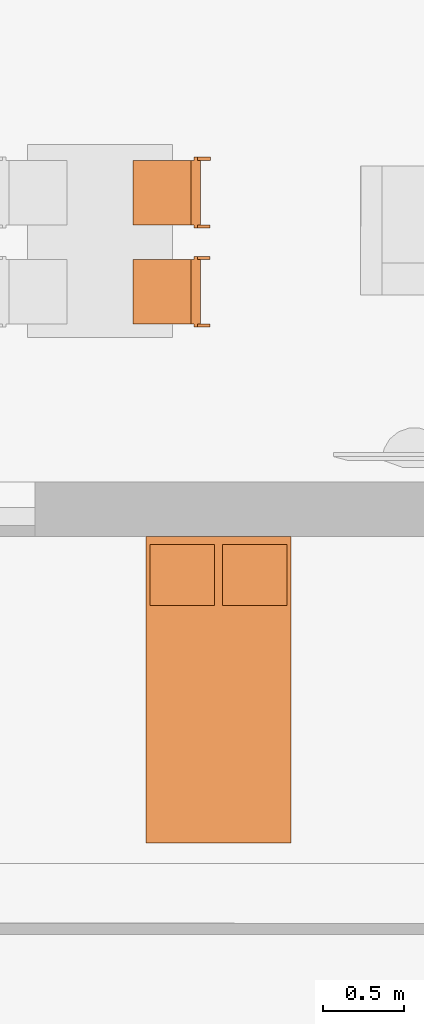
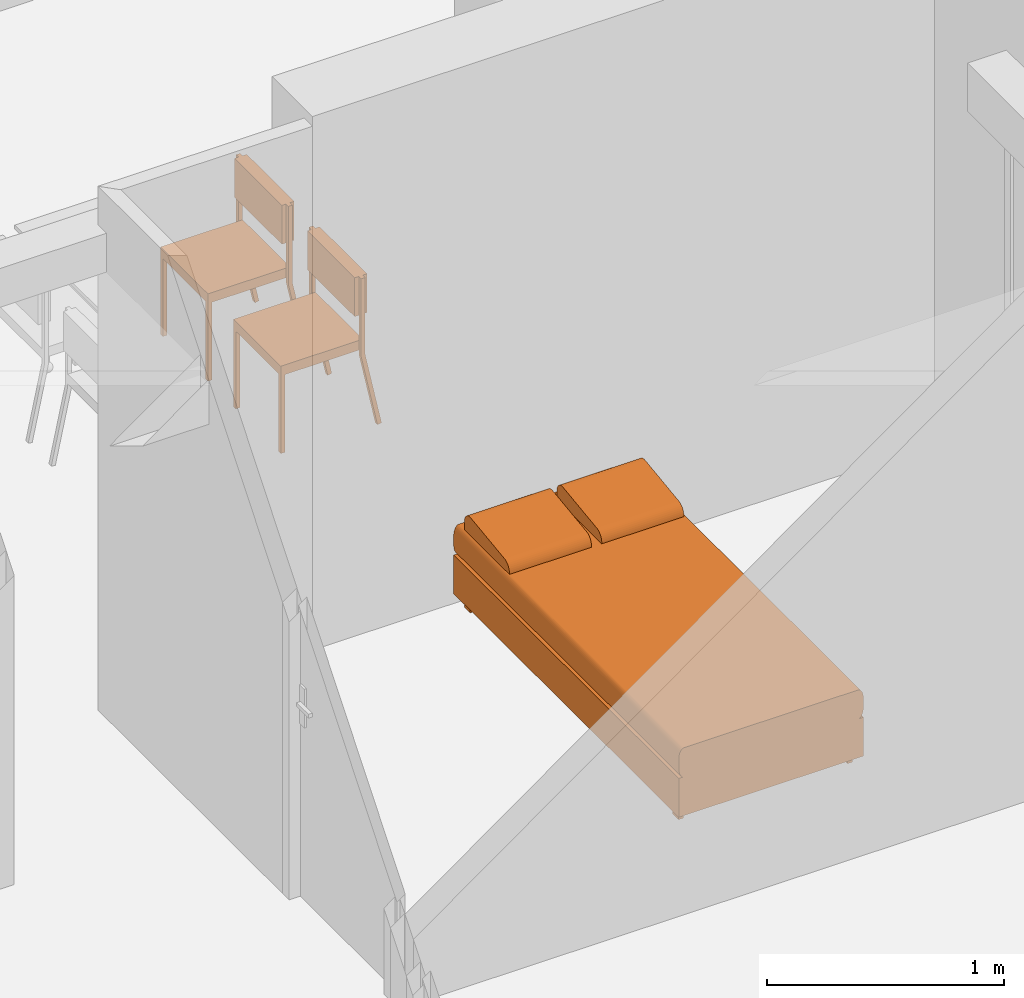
# One storey, part 155 of 171: 3 proxies.
"""IFC2X3 building model written with IfcOpenShell, lengths in millimetres."""

from ifc_helpers import new_model, entity, si_unit, converted_unit, derived_unit, money_unit, direction, frame, origin_with_axes, place, context, subcontext, project, spatial, open_shell, faceted_brep, surface_model, source, transform, mapped, type_object, element, save


model = new_model("IFC2X3")

# Units and contexts
model_context = context("Model", 3, precision=0.01, world=origin_with_axes(), true_north=direction((0.0, 1.0)))
body_context = subcontext(model_context, "Body", "Model", "MODEL_VIEW")
ifc_project = project(units=[si_unit("LENGTHUNIT", "METRE", prefix="MILLI"), si_unit("AREAUNIT", "SQUARE_METRE"), si_unit("VOLUMEUNIT", "CUBIC_METRE"), converted_unit("PLANEANGLEUNIT", "DEGREE", entity("IfcPlaneAngleMeasure", 0.0174532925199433), si_unit("PLANEANGLEUNIT", "RADIAN"), dimensions=[0, 0, 0, 0, 0, 0, 0]), money_unit("USD"), converted_unit("TIMEUNIT", "Year", entity("IfcTimeMeasure", 31557600.0), si_unit("TIMEUNIT", "SECOND"), dimensions=[0, 0, 1, 0, 0, 0, 0]), si_unit("MASSUNIT", "GRAM", prefix="KILO"), si_unit("THERMODYNAMICTEMPERATUREUNIT", "DEGREE_CELSIUS"), si_unit("LUMINOUSINTENSITYUNIT", "LUMEN"), si_unit("ENERGYUNIT", "JOULE", prefix="MEGA"), derived_unit("THERMALCONDUCTANCEUNIT", [(si_unit("POWERUNIT", "WATT"), 1), (si_unit("LENGTHUNIT", "METRE"), -1), (si_unit("THERMODYNAMICTEMPERATUREUNIT", "KELVIN"), -1)]), derived_unit("SPECIFICHEATCAPACITYUNIT", [(si_unit("ENERGYUNIT", "JOULE"), 1), (si_unit("MASSUNIT", "GRAM", prefix="KILO"), -1), (si_unit("THERMODYNAMICTEMPERATUREUNIT", "KELVIN"), -1)]), derived_unit("MASSDENSITYUNIT", [(si_unit("MASSUNIT", "GRAM", prefix="KILO"), 1), (si_unit("VOLUMEUNIT", "CUBIC_METRE"), -1)])], contexts=[model_context])

# Site, building, storey
site_placement = place(None, origin_with_axes())
site = spatial("IfcSite", under=ifc_project, at=site_placement, Name="Site", CompositionType="ELEMENT")
building_placement = place(site_placement, origin_with_axes())
building = spatial("IfcBuilding", under=site, at=building_placement, Name="Bâtiment", CompositionType="ELEMENT")
storey_placement = place(building_placement, frame((0.0, 0.0, 3000.0), z_axis=(0.0, 0.0, 1.0), x_axis=(1.0, 0.0, 0.0)))
storey = spatial("IfcBuildingStorey", under=building, at=storey_placement, Name="rdc", CompositionType="ELEMENT", Elevation=3000.0)

# Proxies
building_element_proxy_type = type_object("IfcBuildingElementProxyType", PredefinedType="NOTDEFINED")
shared_shape_1 = source(origin_with_axes(), body_context, "Body", "Brep", [
    faceted_brep([(39.99999978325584, 0.0, 0.0), (19.99999989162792, 0.0, 0.0), (19.99999989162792, 19.99999936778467, 0.0), (39.99999978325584, 19.99999936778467, 0.0), (39.99999978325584, 0.0, 400.0), (19.99999989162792, 0.0, 400.0), (19.99999989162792, 19.99999936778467, 400.0), (39.99999978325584, 19.99999936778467, 400.0)], [[[0, 1, 2, 3]], [[1, 0, 4, 5]], [[2, 1, 5, 6]], [[3, 2, 6, 7]], [[0, 3, 7, 4]], [[5, 4, 7, 6]]]),
    faceted_brep([(419.9999977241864, 0.0, 0.0), (399.9999978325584, 0.0, 0.0), (399.9999978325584, 19.99999936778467, 0.0), (419.9999977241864, 19.99999936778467, 0.0), (419.9999977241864, 0.0, 400.0), (399.9999978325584, 0.0, 400.0), (399.9999978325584, 19.99999936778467, 400.0), (419.9999977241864, 19.99999936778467, 400.0)], [[[0, 1, 2, 3]], [[1, 0, 4, 5]], [[2, 1, 5, 6]], [[3, 2, 6, 7]], [[0, 3, 7, 4]], [[5, 4, 7, 6]]]),
    faceted_brep([(399.9999978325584, 0.0, 400.0000000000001), (39.99999978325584, 0.0, 400.0000000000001), (39.99999978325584, 19.99999936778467, 400.0000000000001), (399.9999978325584, 19.99999936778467, 400.0000000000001), (399.9999978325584, 0.0, 420.0000000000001), (39.99999978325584, 0.0, 420.0000000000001), (39.99999978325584, 19.99999936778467, 420.0000000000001), (399.9999978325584, 19.99999936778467, 420.0000000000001)], [[[0, 1, 2, 3]], [[1, 0, 4, 5]], [[2, 1, 5, 6]], [[3, 2, 6, 7]], [[0, 3, 7, 4]], [[5, 4, 7, 6]]]),
    faceted_brep([(39.99999978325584, 19.99999936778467, 400.0000000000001), (19.99999989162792, 19.99999936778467, 400.0000000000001), (19.99999989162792, 379.9999879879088, 400.0000000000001), (39.99999978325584, 379.9999879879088, 400.0000000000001), (39.99999978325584, 19.99999936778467, 420.0000000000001), (19.99999989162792, 19.99999936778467, 420.0000000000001), (19.99999989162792, 379.9999879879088, 420.0000000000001), (39.99999978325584, 379.9999879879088, 420.0000000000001)], [[[0, 1, 2, 3]], [[1, 0, 4, 5]], [[2, 1, 5, 6]], [[3, 2, 6, 7]], [[0, 3, 7, 4]], [[5, 4, 7, 6]]]),
    faceted_brep([(419.9999977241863, 379.9999879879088, 400.0000000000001), (19.99999989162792, 379.9999879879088, 400.0000000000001), (19.99999989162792, 399.9999873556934, 400.0000000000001), (419.9999977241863, 399.9999873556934, 400.0000000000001), (419.9999977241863, 379.9999879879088, 420.0000000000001), (19.99999989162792, 379.9999879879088, 420.0000000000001), (19.99999989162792, 399.9999873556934, 420.0000000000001), (419.9999977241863, 399.9999873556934, 420.0000000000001)], [[[0, 1, 2, 3]], [[1, 0, 4, 5]], [[2, 1, 5, 6]], [[3, 2, 6, 7]], [[0, 3, 7, 4]], [[5, 4, 7, 6]]]),
    faceted_brep([(419.9999977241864, 19.99999936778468, 400.0000000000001), (399.9999978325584, 19.99999936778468, 400.0000000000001), (399.9999978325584, 379.9999879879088, 400.0000000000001), (419.9999977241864, 379.9999879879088, 400.0000000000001), (419.9999977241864, 19.99999936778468, 420.0000000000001), (399.9999978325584, 19.99999936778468, 420.0000000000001), (399.9999978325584, 379.9999879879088, 420.0000000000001), (419.9999977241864, 379.9999879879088, 420.0000000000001)], [[[0, 1, 2, 3]], [[1, 0, 4, 5]], [[2, 1, 5, 6]], [[3, 2, 6, 7]], [[0, 3, 7, 4]], [[5, 4, 7, 6]]]),
    faceted_brep([(419.9999977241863, 0.0, 400.0), (19.99999989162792, 0.0, 400.0), (19.99999989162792, 399.9999873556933, 400.0), (419.9999977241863, 399.9999873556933, 400.0), (419.9999977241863, 0.0, 450.0), (19.99999989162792, 0.0, 450.0), (19.99999989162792, 399.9999873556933, 450.0), (419.9999977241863, 399.9999873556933, 450.0)], [[[0, 1, 2, 3]], [[1, 0, 4, 5]], [[2, 1, 5, 6]], [[3, 2, 6, 7]], [[0, 3, 7, 4]], [[5, 4, 7, 6]]]),
    faceted_brep([(19.99999989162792, 379.9999879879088, 380.0), (0.0, 379.9999879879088, 380.0), (0.0, 399.9999873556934, 380.0), (19.99999989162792, 399.9999873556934, 380.0), (19.99999989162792, 379.9999879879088, 780.0), (0.0, 379.9999879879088, 780.0), (0.0, 399.9999873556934, 780.0), (19.99999989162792, 399.9999873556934, 780.0)], [[[0, 1, 2, 3]], [[1, 0, 4, 5]], [[2, 1, 5, 6]], [[3, 2, 6, 7]], [[0, 3, 7, 4]], [[5, 4, 7, 6]]]),
    faceted_brep([(439.9999976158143, 379.9999879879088, 380.0), (419.9999977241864, 379.9999879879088, 380.0), (419.9999977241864, 399.9999873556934, 380.0), (439.9999976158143, 399.9999873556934, 380.0), (439.9999976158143, 379.9999879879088, 780.0), (419.9999977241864, 379.9999879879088, 780.0), (419.9999977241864, 399.9999873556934, 780.0), (439.9999976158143, 399.9999873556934, 780.0)], [[[0, 1, 2, 3]], [[1, 0, 4, 5]], [[2, 1, 5, 6]], [[3, 2, 6, 7]], [[0, 3, 7, 4]], [[5, 4, 7, 6]]]),
    faceted_brep([(419.9999977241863, 359.999988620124, 580.0000000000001), (19.99999989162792, 359.999988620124, 580.0000000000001), (19.99999989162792, 419.9999867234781, 580.0000000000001), (419.9999977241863, 419.9999867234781, 580.0000000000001), (419.9999977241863, 359.999988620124, 780.0), (19.99999989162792, 359.999988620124, 780.0), (19.99999989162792, 419.9999867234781, 780.0), (419.9999977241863, 419.9999867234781, 780.0)], [[[0, 1, 2, 3]], [[1, 0, 4, 5]], [[2, 1, 5, 6]], [[3, 2, 6, 7]], [[0, 3, 7, 4]], [[5, 4, 7, 6]]]),
    faceted_brep([(19.99999989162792, 459.9999854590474, 0.0), (0.0, 459.9999854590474, 0.0), (0.0, 479.5709559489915, 4.120326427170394), (19.99999989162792, 479.5709559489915, 4.120326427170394), (19.99999989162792, 379.997669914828, 379.999760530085), (0.0, 379.997669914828, 379.999760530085), (0.0, 399.5686404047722, 384.1200869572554), (19.99999989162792, 399.5686404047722, 384.1200869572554)], [[[0, 1, 2, 3]], [[1, 0, 4, 5]], [[2, 1, 5, 6]], [[3, 2, 6, 7]], [[0, 3, 7, 4]], [[5, 4, 7, 6]]]),
    faceted_brep([(439.9999976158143, 459.9999854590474, 0.0), (419.9999977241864, 459.9999854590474, 0.0), (419.9999977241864, 479.5709559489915, 4.120326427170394), (439.9999976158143, 479.5709559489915, 4.120326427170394), (439.9999976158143, 379.997669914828, 379.999760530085), (419.9999977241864, 379.997669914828, 379.999760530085), (419.9999977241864, 399.5686404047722, 384.1200869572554), (439.9999976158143, 399.5686404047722, 384.1200869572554)], [[[0, 1, 2, 3]], [[1, 0, 4, 5]], [[2, 1, 5, 6]], [[3, 2, 6, 7]], [[0, 3, 7, 4]], [[5, 4, 7, 6]]]),
])
for number, where, z_axis, x_axis, name in (
    (1, (2230042.608251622, -638670.5259858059, 0.0), (0.0, 0.0, 1.0), (-8.510155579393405e-05, -0.9999999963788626, 0.0), "Obj.-027"),
    (2, (2230042.555903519, -639285.6513884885, 0.0), (0.0, 0.0, 1.0), (-8.510155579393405e-05, -0.9999999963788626, 0.0), "Obj.-027"),
):
    element("IfcBuildingElementProxy", number, at=place(storey_placement, frame(where, z_axis=z_axis, x_axis=x_axis)), inside=storey, type_object=building_element_proxy_type, Name=name, context=body_context, shape_type="MappedRepresentation", body=[
        mapped(shared_shape_1, transform((0.0, 0.0, 0.0))),
    ])
shared_shape_2 = source(origin_with_axes(), body_context, "Body", "SurfaceModel", [
    faceted_brep([(-400.0, -95.0, 0.0), (-425.0000000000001, -95.0, 0.0), (-425.0000000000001, -47.5, 0.0), (-400.0, -47.5, 0.0), (-400.0, -95.0, 50.0), (-425.0000000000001, -95.0, 50.0), (-425.0000000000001, -47.5, 50.0), (-400.0, -47.5, 50.0)], [[[0, 1, 2, 3]], [[1, 0, 4, 5]], [[2, 1, 5, 6]], [[3, 2, 6, 7]], [[0, 3, 7, 4]], [[5, 4, 7, 6]]]),
    faceted_brep([(-400.0, -1852.5, 0.0), (-425.0000000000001, -1852.5, 0.0), (-425.0000000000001, -1805.0, 0.0), (-400.0, -1805.0, 0.0), (-400.0, -1852.5, 50.0), (-425.0000000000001, -1852.5, 50.0), (-425.0000000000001, -1805.0, 50.0), (-400.0, -1805.0, 50.0)], [[[0, 1, 2, 3]], [[1, 0, 4, 5]], [[2, 1, 5, 6]], [[3, 2, 6, 7]], [[0, 3, 7, 4]], [[5, 4, 7, 6]]]),
    faceted_brep([(425.0000000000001, -1852.5, 0.0), (400.0, -1852.5, 0.0), (400.0, -1805.0, 0.0), (425.0000000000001, -1805.0, 0.0), (425.0000000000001, -1852.5, 50.0), (400.0, -1852.5, 50.0), (400.0, -1805.0, 50.0), (425.0000000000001, -1805.0, 50.0)], [[[0, 1, 2, 3]], [[1, 0, 4, 5]], [[2, 1, 5, 6]], [[3, 2, 6, 7]], [[0, 3, 7, 4]], [[5, 4, 7, 6]]]),
    faceted_brep([(425.0000000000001, -94.99999999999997, 0.0), (400.0, -94.99999999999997, 0.0), (400.0, -47.49999999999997, 0.0), (425.0000000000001, -47.49999999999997, 0.0), (425.0000000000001, -94.99999999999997, 50.0), (400.0, -94.99999999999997, 50.0), (400.0, -47.49999999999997, 50.0), (425.0000000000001, -47.49999999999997, 50.0)], [[[0, 1, 2, 3]], [[1, 0, 4, 5]], [[2, 1, 5, 6]], [[3, 2, 6, 7]], [[0, 3, 7, 4]], [[5, 4, 7, 6]]]),
    faceted_brep([(-450.0, 0.0, 50.0), (450.0, 0.0, 50.0), (450.0, -1900.0, 50.00000000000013), (-450.0, -1900.0, 50.00000000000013), (-450.0, 0.0, 250.0), (450.0, 0.0, 250.0), (450.0, -1900.0, 250.0000000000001), (-450.0, -1900.0, 250.0000000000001)], [[[0, 1, 2, 3]], [[0, 4, 5, 1]], [[1, 5, 6, 2]], [[3, 2, 6, 7]], [[4, 0, 3, 7]], [[5, 4, 7, 6]]]),
    surface_model("IfcShellBasedSurfaceModel", [(425.0000000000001, 0.0, 250.0), (429.3412044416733, 0.0, 250.7596123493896), (429.3412044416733, -1900.0, 250.7596123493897), (425.0000000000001, -1900.0, 250.0000000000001), (-425.0000000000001, 0.0, 250.0), (-429.3412044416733, 0.0, 250.7596123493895), (-433.5505035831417, 0.0, 253.0153689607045), (-437.5, 0.0, 256.698729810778), (-441.0696902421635, 0.0, 261.6977778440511), (-444.1511110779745, 0.0, 267.860619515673), (-446.650635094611, 0.0, 275.0), (-448.4923155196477, 0.0, 282.8989928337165), (-449.6201938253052, 0.0, 291.3175911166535), (-450.0, 0.0, 300.0000000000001), (-450.0000000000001, 0.0, 350.0), (-449.6201938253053, 0.0, 358.6824088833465), (-448.4923155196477, 0.0, 367.1010071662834), (-446.650635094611, 0.0, 375.0), (-444.1511110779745, 0.0, 382.139380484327), (-441.0696902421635, 0.0, 388.3022221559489), (-437.5000000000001, 0.0, 393.301270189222), (-433.5505035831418, 0.0, 396.9846310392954), (-429.3412044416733, 0.0, 399.2403876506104), (-425.0000000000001, 0.0, 400.0), (425.0, 0.0, 400.0000000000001), (429.3412044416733, 0.0, 399.2403876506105), (433.5505035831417, 0.0, 396.9846310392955), (437.5, 0.0, 393.301270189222), (441.0696902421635, 0.0, 388.3022221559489), (444.1511110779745, 0.0, 382.139380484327), (446.6506350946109, 0.0, 375.0000000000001), (448.4923155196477, 0.0, 367.1010071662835), (449.6201938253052, 0.0, 358.6824088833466), (450.0, 0.0, 350.0000000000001), (450.0, 0.0, 300.0000000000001), (449.6201938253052, 0.0, 291.3175911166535), (448.4923155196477, 0.0, 282.8989928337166), (446.650635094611, 0.0, 275.0), (444.1511110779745, 0.0, 267.8606195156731), (441.0696902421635, 0.0, 261.6977778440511), (437.5000000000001, 0.0, 256.698729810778), (433.5505035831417, 0.0, 253.0153689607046), (433.5505035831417, -1900.0, 253.0153689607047), (-425.0000000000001, -1900.0, 250.0000000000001), (437.5000000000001, -1900.0, 256.6987298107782), (441.0696902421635, -1900.0, 261.6977778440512), (444.1511110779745, -1900.0, 267.8606195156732), (446.650635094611, -1900.0, 275.0000000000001), (448.4923155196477, -1900.0, 282.8989928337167), (449.6201938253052, -1900.0, 291.3175911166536), (450.0, -1900.0, 300.0000000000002), (450.0, -1900.0, 350.0000000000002), (449.6201938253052, -1900.0, 358.6824088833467), (448.4923155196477, -1900.0, 367.1010071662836), (446.6506350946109, -1900.0, 375.0000000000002), (444.1511110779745, -1900.0, 382.1393804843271), (441.0696902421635, -1900.0, 388.302222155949), (437.5, -1900.0, 393.3012701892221), (433.5505035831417, -1900.0, 396.9846310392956), (429.3412044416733, -1900.0, 399.2403876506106), (425.0, -1900.0, 400.0000000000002), (-425.0000000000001, -1900.0, 400.0000000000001), (-429.3412044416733, -1900.0, 399.2403876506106), (-433.5505035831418, -1900.0, 396.9846310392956), (-437.5000000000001, -1900.0, 393.3012701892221), (-441.0696902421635, -1900.0, 388.302222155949), (-444.1511110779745, -1900.0, 382.1393804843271), (-446.650635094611, -1900.0, 375.0000000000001), (-448.4923155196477, -1900.0, 367.1010071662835), (-449.6201938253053, -1900.0, 358.6824088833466), (-450.0000000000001, -1900.0, 350.0000000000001), (-450.0, -1900.0, 300.0000000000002), (-449.6201938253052, -1900.0, 291.3175911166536), (-448.4923155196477, -1900.0, 282.8989928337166), (-446.650635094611, -1900.0, 275.0000000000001), (-444.1511110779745, -1900.0, 267.8606195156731), (-441.0696902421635, -1900.0, 261.6977778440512), (-437.5, -1900.0, 256.6987298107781), (-433.5505035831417, -1900.0, 253.0153689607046), (-429.3412044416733, -1900.0, 250.7596123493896)], [open_shell([[[0, 1, 2, 3]], [[4, 5, 6, 7, 8, 9, 10, 11, 12, 13, 14, 15, 16, 17, 18, 19, 20, 21, 22, 23, 24, 25, 26, 27, 28, 29, 30, 31, 32, 33, 34, 35, 36, 37, 38, 39, 40, 41, 1, 0]], [[1, 41, 42, 2]], [[43, 3, 2, 42, 44, 45, 46, 47, 48, 49, 50, 51, 52, 53, 54, 55, 56, 57, 58, 59, 60, 61, 62, 63, 64, 65, 66, 67, 68, 69, 70, 71, 72, 73, 74, 75, 76, 77, 78, 79]], [[5, 4, 43, 79]], [[6, 5, 79, 78]], [[7, 6, 78, 77]], [[8, 7, 77, 76]], [[9, 8, 76, 75]], [[10, 9, 75, 74]], [[11, 10, 74, 73]], [[12, 11, 73, 72]], [[13, 12, 72, 71]], [[14, 13, 71, 70]], [[15, 14, 70, 69]], [[16, 15, 69, 68]], [[17, 16, 68, 67]], [[18, 17, 67, 66]], [[19, 18, 66, 65]], [[20, 19, 65, 64]], [[21, 20, 64, 63]], [[22, 21, 63, 62]], [[23, 22, 62, 61]], [[24, 23, 61, 60]], [[25, 24, 60, 59]], [[26, 25, 59, 58]], [[27, 26, 58, 57]], [[28, 27, 57, 56]], [[29, 28, 56, 55]], [[30, 29, 55, 54]], [[31, 30, 54, 53]], [[32, 31, 53, 52]], [[33, 32, 52, 51]], [[34, 33, 51, 50]], [[35, 34, 50, 49]], [[36, 35, 49, 48]], [[37, 36, 48, 47]], [[38, 37, 47, 46]], [[39, 38, 46, 45]], [[40, 39, 45, 44]], [[41, 40, 44, 42]]])]),
    faceted_brep([(24.99999999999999, -47.49999999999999, 400.0), (24.99999999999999, -47.49999999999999, 443.4), (425.0, -47.50000000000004, 443.4000000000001), (425.0, -47.50000000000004, 400.0000000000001), (24.99999999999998, -427.5, 400.0), (24.99999999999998, -427.6960812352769, 408.695442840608), (24.99999999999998, -426.4675711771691, 417.2966661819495), (24.99999999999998, -423.8511300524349, 425.5469991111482), (24.99999999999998, -419.9248356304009, 433.2002417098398), (24.99999999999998, -414.8058532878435, 440.0280119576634), (24.99999999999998, -408.6469396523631, 445.826560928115), (24.99999999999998, -401.6318841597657, 450.4228529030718), (24.99999999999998, -393.9700245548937, 453.6797289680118), (24.99999999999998, -385.89, 455.5), (24.99999999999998, -100.89, 493.0000000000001), (24.99999999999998, -92.85488048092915, 493.3370808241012), (24.99999999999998, -84.88093291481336, 492.2422169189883), (24.99999999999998, -77.19681007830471, 489.7468034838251), (24.99999999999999, -70.02285403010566, 485.922396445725), (24.99999999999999, -63.56477780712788, 480.878660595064), (24.99999999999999, -58.00776660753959, 474.7602249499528), (24.99999999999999, -53.51116760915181, 467.7425355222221), (24.99999999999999, -50.20392069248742, 460.0268244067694), (24.99999999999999, -48.18086109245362, 451.834339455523), (425.0, -48.18086109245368, 451.8343394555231), (425.0, -50.20392069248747, 460.0268244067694), (425.0, -53.51116760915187, 467.7425355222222), (425.0, -58.00776660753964, 474.7602249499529), (425.0, -63.56477780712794, 480.878660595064), (425.0, -70.02285403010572, 485.922396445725), (425.0, -77.19681007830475, 489.7468034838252), (425.0, -84.88093291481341, 492.2422169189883), (425.0, -92.85488048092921, 493.3370808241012), (425.0, -100.8900000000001, 493.0000000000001), (425.0, -385.89, 455.5000000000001), (425.0, -393.9700245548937, 453.6797289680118), (425.0, -401.6318841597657, 450.4228529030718), (425.0, -408.6469396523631, 445.826560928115), (425.0, -414.8058532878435, 440.0280119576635), (425.0, -419.924835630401, 433.2002417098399), (425.0, -423.8511300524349, 425.5469991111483), (425.0, -426.4675711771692, 417.2966661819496), (425.0, -427.6960812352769, 408.6954428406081), (425.0, -427.5, 400.0000000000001)], [[[0, 1, 2, 3]], [[0, 4, 5, 6, 7, 8, 9, 10, 11, 12, 13, 14, 15, 16, 17, 18, 19, 20, 21, 22, 23, 1]], [[1, 23, 24, 2]], [[3, 2, 24, 25, 26, 27, 28, 29, 30, 31, 32, 33, 34, 35, 36, 37, 38, 39, 40, 41, 42, 43]], [[4, 0, 3, 43]], [[5, 4, 43, 42]], [[6, 5, 42, 41]], [[7, 6, 41, 40]], [[8, 7, 40, 39]], [[9, 8, 39, 38]], [[10, 9, 38, 37]], [[11, 10, 37, 36]], [[12, 11, 36, 35]], [[13, 12, 35, 34]], [[14, 13, 34, 33]], [[15, 14, 33, 32]], [[16, 15, 32, 31]], [[17, 16, 31, 30]], [[18, 17, 30, 29]], [[19, 18, 29, 28]], [[20, 19, 28, 27]], [[21, 20, 27, 26]], [[22, 21, 26, 25]], [[23, 22, 25, 24]]]),
    faceted_brep([(-425.0000000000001, -47.49999999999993, 399.9999999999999), (-425.0000000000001, -47.49999999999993, 443.4), (-25.00000000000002, -47.49999999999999, 443.4), (-25.00000000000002, -47.49999999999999, 400.0), (-425.0000000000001, -427.4999999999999, 399.9999999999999), (-425.0000000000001, -427.6960812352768, 408.6954428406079), (-425.0000000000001, -426.4675711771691, 417.2966661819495), (-425.0000000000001, -423.8511300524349, 425.5469991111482), (-425.0000000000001, -419.9248356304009, 433.2002417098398), (-425.0000000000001, -414.8058532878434, 440.0280119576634), (-425.0000000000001, -408.646939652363, 445.8265609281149), (-425.0000000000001, -401.6318841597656, 450.4228529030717), (-425.0000000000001, -393.9700245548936, 453.6797289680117), (-425.0000000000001, -385.8899999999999, 455.4999999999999), (-425.0000000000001, -100.89, 493.0), (-425.0000000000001, -92.8548804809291, 493.3370808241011), (-425.0000000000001, -84.8809329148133, 492.2422169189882), (-425.0000000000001, -77.19681007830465, 489.7468034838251), (-425.0000000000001, -70.0228540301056, 485.9223964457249), (-425.0000000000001, -63.56477780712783, 480.8786605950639), (-425.0000000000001, -58.00776660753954, 474.7602249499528), (-425.0000000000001, -53.51116760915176, 467.7425355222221), (-425.0000000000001, -50.20392069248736, 460.0268244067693), (-425.0000000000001, -48.18086109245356, 451.834339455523), (-25.00000000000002, -48.18086109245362, 451.834339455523), (-25.00000000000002, -50.20392069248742, 460.0268244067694), (-25.00000000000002, -53.51116760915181, 467.7425355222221), (-25.00000000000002, -58.00776660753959, 474.7602249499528), (-25.00000000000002, -63.56477780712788, 480.878660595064), (-25.00000000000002, -70.02285403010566, 485.922396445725), (-25.00000000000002, -77.19681007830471, 489.7468034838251), (-25.00000000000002, -84.88093291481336, 492.2422169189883), (-25.00000000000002, -92.85488048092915, 493.3370808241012), (-25.00000000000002, -100.89, 493.0000000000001), (-25.00000000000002, -385.8899999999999, 455.5), (-25.00000000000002, -393.9700245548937, 453.6797289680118), (-25.00000000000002, -401.6318841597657, 450.4228529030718), (-25.00000000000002, -408.6469396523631, 445.826560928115), (-25.00000000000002, -414.8058532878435, 440.0280119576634), (-25.00000000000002, -419.9248356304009, 433.2002417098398), (-25.00000000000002, -423.8511300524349, 425.5469991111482), (-25.00000000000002, -426.4675711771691, 417.2966661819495), (-25.00000000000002, -427.6960812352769, 408.695442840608), (-25.00000000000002, -427.4999999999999, 400.0)], [[[0, 1, 2, 3]], [[0, 4, 5, 6, 7, 8, 9, 10, 11, 12, 13, 14, 15, 16, 17, 18, 19, 20, 21, 22, 23, 1]], [[1, 23, 24, 2]], [[3, 2, 24, 25, 26, 27, 28, 29, 30, 31, 32, 33, 34, 35, 36, 37, 38, 39, 40, 41, 42, 43]], [[4, 0, 3, 43]], [[5, 4, 43, 42]], [[6, 5, 42, 41]], [[7, 6, 41, 40]], [[8, 7, 40, 39]], [[9, 8, 39, 38]], [[10, 9, 38, 37]], [[11, 10, 37, 36]], [[12, 11, 36, 35]], [[13, 12, 35, 34]], [[14, 13, 34, 33]], [[15, 14, 33, 32]], [[16, 15, 32, 31]], [[17, 16, 31, 30]], [[18, 17, 30, 29]], [[19, 18, 29, 28]], [[20, 19, 28, 27]], [[21, 20, 27, 26]], [[22, 21, 26, 25]], [[23, 22, 25, 24]]]),
])
proxy_placement = place(storey_placement, frame((2230573.268516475, -641025.2771141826, 0.0), z_axis=(0.0, 0.0, 1.0), x_axis=(0.9999999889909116, 0.000148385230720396, 0.0)))
element("IfcBuildingElementProxy", 3, at=proxy_placement, inside=storey, type_object=building_element_proxy_type, Name="Obj.-003", context=body_context, shape_type="MappedRepresentation", body=[
    mapped(shared_shape_2, transform((0.0, 0.0, 0.0))),
])

save(model, "model.ifc")
